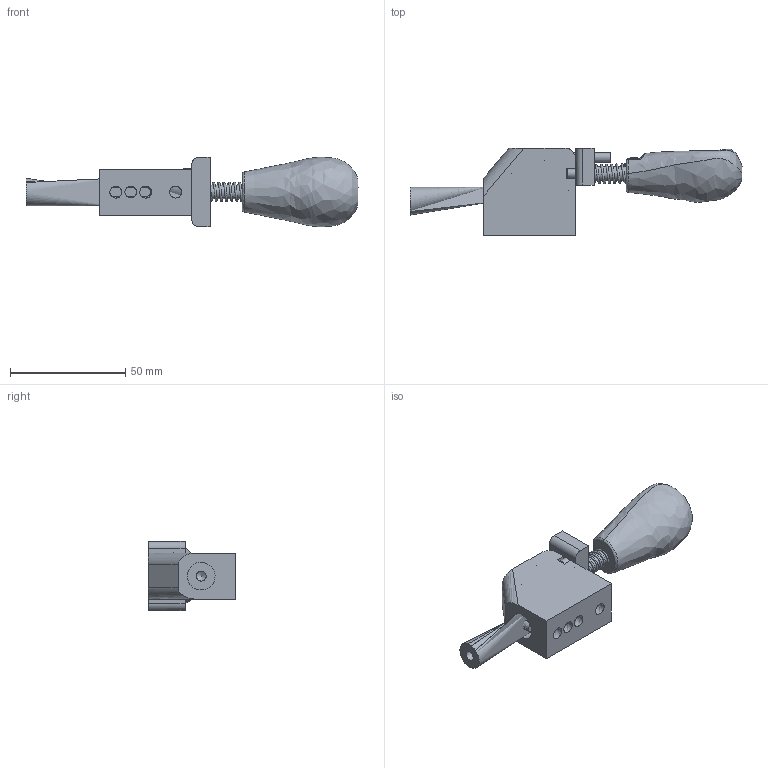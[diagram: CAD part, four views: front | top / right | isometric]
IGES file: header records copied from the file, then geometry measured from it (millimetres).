
Global section: file name: YSP-22ST-L-CLAMP; native system: Autodesk Inventor 2019; preprocessor: unknown; author: 桶田 勝弘,,  11,0; organization: 20171006.074515; date: 20240514.164429; units: millimetre
Bounding box: 144.25 x 38 x 30.18 mm (x, y, z)
Volume: 51356.2 mm3; surface area: 22415.7 mm2
Topology: 10 solids, 10 shells, 233 faces, 644 edges, 431 vertices
Faces by surface type: bspline 233
